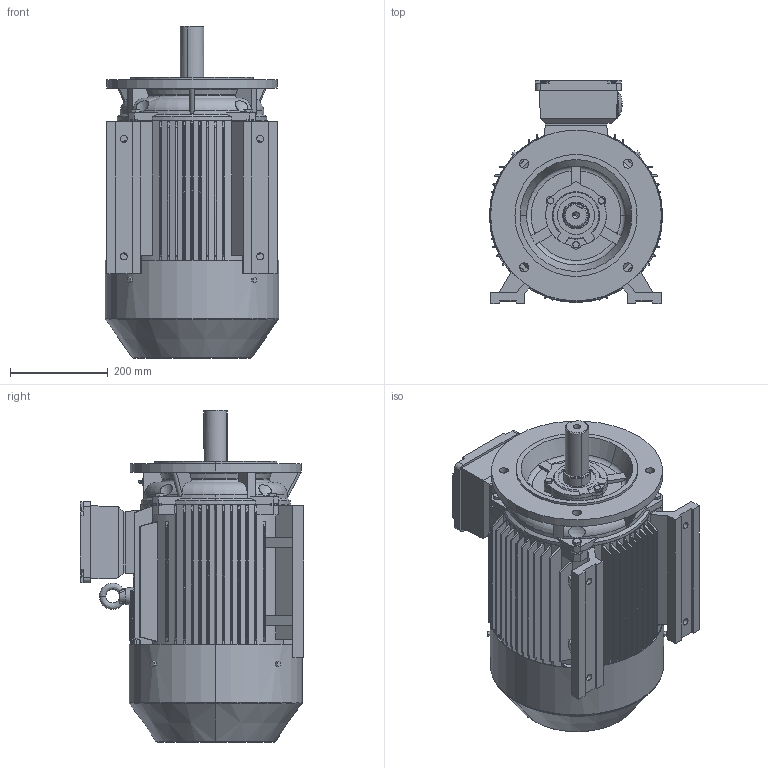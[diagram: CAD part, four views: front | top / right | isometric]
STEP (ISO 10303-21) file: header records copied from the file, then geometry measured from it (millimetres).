
FILE_DESCRIPTION (( 'STEP AP203' ), '1' );
FILE_NAME ('TE3-180M-2 B35上2018.STEP', '2019-11-19T03:17:07', ( '微软用户' ), ( '微软中国' ), 'SwSTEP 2.0', 'SolidWorks 2012', '' );
FILE_SCHEMA (( 'CONFIG_CONTROL_DESIGN' ));
Products named in the file (14): TE3-180M-2 B35奻2018; 蚐戚; hexagon head bolts gb_GB_FASTENER_BOLT_SB A M8X40-N; hexagon head bolts-full thread gb_GB_FASTENER_BOLT_STBAB A M10X20-N; 5EJ.354.484GX160~180P24諉盄碟; hexagon head bolts-full thread gb_GB_FASTENER_BOLT_STBAB A M6X12-N; 8EJ.353.10053GX160~180P24諉盄碟裔; 8EJ.354.593Y2-160~180P24諉盄碟釱; eyebolts gb_GB_FASTENER_SCREWS_FRS M12-N; YX3-180 粣ㄗ粣扥ㄘ; YX3-180-2 粣創俋裔; YX3-180 瑞欶; Y2-180-2芧埽傷裔017.00088; Y2-180M 001儂釱
Assembly tree (22 placements, depth 3):
  TE3-180M-2 B35奻2018
    Y2-180M 001儂釱
    Y2-180-2芧埽傷裔017.00088
    YX3-180 瑞欶
    YX3-180-2 粣創俋裔
    YX3-180 粣ㄗ粣扥ㄘ
    eyebolts gb_GB_FASTENER_SCREWS_FRS M12-N
    5EJ.354.484GX160~180P24諉盄碟  x2
      8EJ.354.593Y2-160~180P24諉盄碟釱
      8EJ.353.10053GX160~180P24諉盄碟裔
      hexagon head bolts-full thread gb_GB_FASTENER_BOLT_STBAB A M6X12-N
    hexagon head bolts-full thread gb_GB_FASTENER_BOLT_STBAB A M10X20-N  x4
    hexagon head bolts gb_GB_FASTENER_BOLT_SB A M8X40-N  x3
    蚐戚
Bounding box: 355 x 457 x 680 mm (x, y, z)
Volume: 36280287.6 mm3; surface area: 2710709.2 mm2
Topology: 27 solids, 29 shells, 3374 faces, 8785 edges, 5769 vertices
Faces by surface type: plane 1709, cylinder 1233, cone 321, torus 63, bspline 38, sphere 10
Entity records: 99208 total; most frequent: CARTESIAN_POINT 23544, DIRECTION 15487, ORIENTED_EDGE 15476, EDGE_CURVE 7738, AXIS2_PLACEMENT_3D 5492, VERTEX_POINT 5116, LINE 4503, VECTOR 4503
